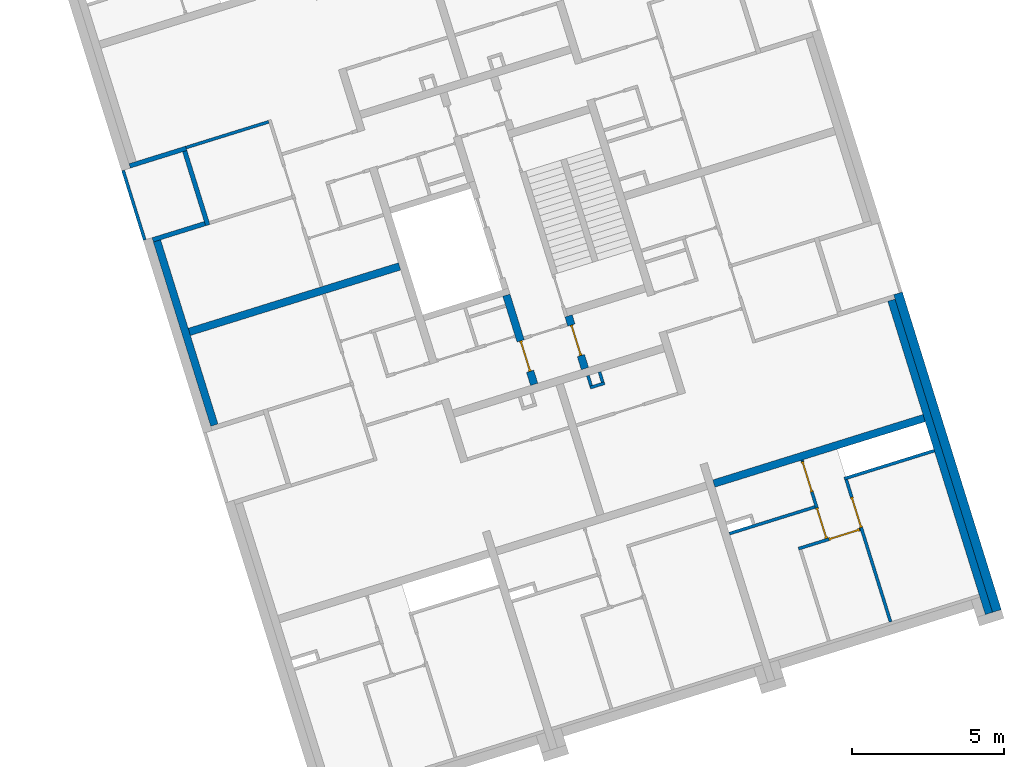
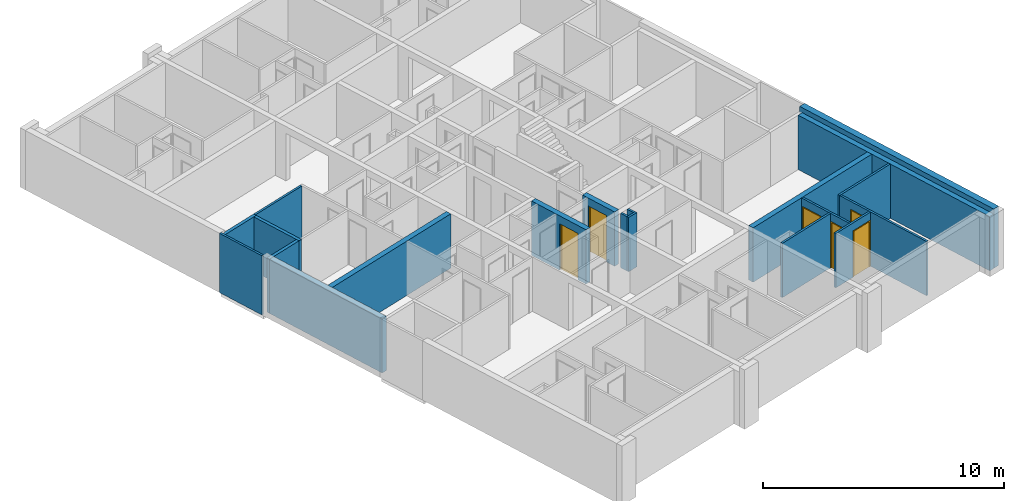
# One storey, part 4 of 12: 20 walls, 6 doors, 9 openings.
"""IFC4 building model written with IfcOpenShell, lengths in metres."""

from ifc_helpers import new_model, entity, si_unit, converted_unit, direction, frame, origin, place, context, subcontext, project, spatial, indexed_curve, outline, extrude, polygons, source, transform, mapped, material, constituent, constituent_set, type_object, type_shapes, element, fill, save


model = new_model("IFC4")

# Units and contexts
model_context = context("Model", 3, precision=1e-05, world=origin(), true_north=direction((6.12323399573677e-17, 1.0)))
body_context = subcontext(model_context, "Body", "Model", "MODEL_VIEW")
ifc_project = project(units=[si_unit("LENGTHUNIT", "METRE"), si_unit("AREAUNIT", "SQUARE_METRE"), si_unit("VOLUMEUNIT", "CUBIC_METRE"), converted_unit("PLANEANGLEUNIT", "DEGREE", entity("IfcPlaneAngleMeasure", 0.0174532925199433), si_unit("PLANEANGLEUNIT", "RADIAN"), dimensions=[0, 0, 0, 0, 0, 0, 0])], contexts=[model_context])

# Site, building, storey
site_placement = place(None, frame((13.1347999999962, 11.9886000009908, 0.0), z_axis=(0.0, 0.0, 1.0), x_axis=(0.954770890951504, 0.297342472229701, 0.0)))
site = spatial("IfcSite", under=ifc_project, at=site_placement, Name="Schiehaven", CompositionType="ELEMENT")
building_placement = place(site_placement, origin())
building = spatial("IfcBuilding", under=site, at=building_placement, Name="VORM huis", CompositionType="ELEMENT")
storey_placement = place(building_placement, frame((0.0, 0.0, 3.9)))
storey = spatial("IfcBuildingStorey", under=building, at=storey_placement, Name="01 eerste verdieping", CompositionType="ELEMENT", Elevation=3.9)

# Walls
ifc_material_1 = material(Name="beton_gewapend_ihw", Category="Miscellaneous")
wall_type_1 = type_object("IfcWallType", Name="Basic Wall:28_WA_skelet_wand 250mm_gen", PredefinedType="STANDARD")
wall_1_placement = place(storey_placement, frame((5.0, 13.8750000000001, 0.0), z_axis=(0.0, 0.0, 1.0), x_axis=(0.0, 1.0, 0.0)))
element("IfcWall", 1, at=wall_1_placement, inside=storey, type_object=wall_type_1, material=ifc_material_1, Name="Constructieve wand", ObjectType="Wand", PredefinedType="NOTDEFINED", context=body_context, shape_type="SweptSolid", body=[
    extrude(outline(indexed_curve([(6.34999999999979, 0.125), (-6.39488462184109e-16, 0.125), (-1.52624579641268e-15, -0.125), (6.3499999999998, -0.125), (6.34999999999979, 0.125)], self_intersect=False)), origin(), (0.0, 0.0, 1.0), 2.75),
])
wall_2_placement = place(storey_placement, frame((27.5000000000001, 0.37499999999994, 0.0), z_axis=(0.0, 0.0, 1.0), x_axis=(0.0, 1.0, 0.0)))
element("IfcWall", 2, at=wall_2_placement, inside=storey, type_object=wall_type_1, material=ifc_material_1, Name="Constructieve wand", ObjectType="Wand", PredefinedType="NOTDEFINED", context=body_context, shape_type="SweptSolid", body=[
    extrude(outline(indexed_curve([(10.8000000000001, 0.125000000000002), (1.00265474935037e-16, 0.125000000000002), (-1.00265474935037e-16, -0.125000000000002), (10.8000000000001, -0.125000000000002), (10.8000000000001, 0.125000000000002)], self_intersect=False)), origin(), (0.0, 0.0, 1.0), 2.75),
])
ifc_material_2 = material(Name="ntb_ntb_ntb", Category="Miscellaneous")
wall_type_2 = type_object("IfcWallType", Name="Basic Wall: 300mm_gen", PredefinedType="STANDARD")
wall_3_placement = place(storey_placement, frame((27.7750000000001, 0.374999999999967, 0.0), z_axis=(0.0, 0.0, 1.0), x_axis=(0.0, 1.0, 0.0)))
element("IfcWall", 3, at=wall_3_placement, inside=storey, type_object=wall_type_2, material=ifc_material_2, Name="Gevelwand", ObjectType="Wand", PredefinedType="NOTDEFINED", context=body_context, shape_type="SweptSolid", body=[
    extrude(outline(indexed_curve([(10.95, 0.15), (7.31666979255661e-17, 0.150000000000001), (-7.31666979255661e-17, -0.150000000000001), (10.95, -0.150000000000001), (10.95, 0.15)], self_intersect=False)), origin(), (0.0, 0.0, 1.0), 3.0),
])
wall_type_3 = type_object("IfcWallType", Name="Basic Wall:22_WA_afbouw_binnenwand 250mm_gen", PredefinedType="STANDARD")
wall_4_placement = place(storey_placement, frame((12.3750000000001, 17.05, 0.0), z_axis=(0.0, 0.0, 1.0), x_axis=(-1.0, 0.0, 0.0)))
element("IfcWall", 4, at=wall_4_placement, inside=storey, type_object=wall_type_3, material=ifc_material_2, Name="Binnenwand", ObjectType="Wand", PredefinedType="NOTDEFINED", context=body_context, shape_type="SweptSolid", body=[
    extrude(outline(indexed_curve([(7.24999999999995, 0.125), (-4.96496521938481e-16, 0.125), (4.96496521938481e-16, -0.125), (7.24999999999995, -0.124999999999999), (7.24999999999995, 0.125)], self_intersect=False)), origin(), (0.0, 0.0, 1.0), 2.75),
])

# Wall, opening, door
wall_5_placement = place(storey_placement, frame((17.2000000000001, 13.84, 0.0), z_axis=(0.0, 0.0, 1.0), x_axis=(0.0, -1.0, 0.0)))
wall_5 = element("IfcWall", 5, at=wall_5_placement, inside=storey, type_object=wall_type_3, material=ifc_material_2, Name="Binnenwand", ObjectType="Wand", PredefinedType="NOTDEFINED", context=body_context, shape_type="Tessellation", body=[
    polygons([(1.36500000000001, -0.124999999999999, 2.34999999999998), (1.36500000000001, -0.124999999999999, -5.41433564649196e-16), (1.81499999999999, -0.125000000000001, -5.41433564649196e-16), (1.81499999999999, -0.125000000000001, 2.75), (0.315000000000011, -0.124999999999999, 2.75), (0.215000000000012, -0.124999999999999, 2.75), (-2.16573425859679e-15, -0.125, 2.75), (-2.16573425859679e-15, -0.125, -5.41433564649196e-16), (0.215000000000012, -0.124999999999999, 0.0), (0.315000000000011, -0.124999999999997, -5.41433564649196e-16), (0.315000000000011, -0.124999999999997, 2.34999999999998), (1.81499999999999, 0.124999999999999, -5.41433564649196e-16), (1.36500000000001, 0.125, -5.41433564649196e-16), (1.36500000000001, 0.125, 2.34999999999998), (0.315000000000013, 0.125, 2.34999999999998), (0.315000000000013, 0.125, -5.41433564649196e-16), (0.0, 0.124999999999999, -5.41433564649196e-16), (0.0, 0.124999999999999, 2.75), (1.81499999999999, 0.124999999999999, 2.75), (-2.16573425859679e-15, -0.0250000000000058, 0.0), (-2.16573425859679e-15, -0.0250000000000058, 2.75)], [[[1, 2, 3, 4, 5, 6, 7, 8, 9, 10, 11]], [[12, 13, 14, 15, 16, 17, 18, 19]], [[10, 9, 8, 20, 17, 16]], [[4, 3, 12, 19]], [[7, 6, 5, 4, 19, 18, 21]], [[8, 7, 21, 18, 17, 20]], [[16, 15, 11, 10]], [[14, 13, 2, 1]], [[15, 14, 1, 11]], [[3, 2, 13, 12]]], closed=True),
])
opening_1_placement = place(wall_5_placement, frame((1.36500000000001, 0.125000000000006, 0.0)))
opening_1 = element("IfcOpeningElement", 6, at=opening_1_placement, cuts=wall_5, Name="Woningtoegangsdeur", PredefinedType="OPENING", context=body_context, shape_type="SweptSolid", body=[
    extrude(outline(indexed_curve([(2.34999999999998, 1.05), (0.0, 1.05), (0.0, 1.35358391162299e-15), (2.34999999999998, 1.35358391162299e-15), (2.34999999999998, 1.05)], self_intersect=False)), frame((0.0, 0.0, 0.0), z_axis=(0.0, -1.0, 0.0), x_axis=(0.0, 0.0, 1.0)), (0.0, 0.0, 1.0), 0.25),
])
ifc_material_3 = material(Name="PD_a_binnenwandopeningen", Category="Miscellaneous")
ifc_constituent_1 = constituent(ifc_material_3, Name="PD_a_binnenwandopeningen", Category="Miscellaneous")
ifc_material_4 = material(Name="metaal_aluminium_ntb", Category="Miscellaneous")
ifc_constituent_2 = constituent(ifc_material_4, Name="metaal_aluminium_ntb", Category="Miscellaneous")
ifc_constituent_set_1 = constituent_set(constituents=[ifc_constituent_1, ifc_constituent_2])
door_type_1 = type_object("IfcDoorType", Name="32_DO_binnendeur enkel:woningtoegangsdeur", OperationType="REVOLVING", PredefinedType="DOOR")
shared_shape_1 = source(origin(), body_context, "Body", "SweptSolid", [
    extrude(outline(indexed_curve([(-1.16249999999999, -0.525000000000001), (1.18749999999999, -0.525), (1.18749999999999, 0.525000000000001), (-1.16249999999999, 0.525000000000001), (-1.16249999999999, 0.475), (1.13749999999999, 0.475), (1.13749999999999, -0.475), (-1.16249999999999, -0.475), (-1.16249999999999, -0.525000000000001)], self_intersect=False)), frame((0.525000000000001, 0.0749999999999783, 1.16249999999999), z_axis=(0.0, 1.0, 0.0), x_axis=(0.0, 0.0, 1.0)), (0.0, 0.0, 1.0), 0.1),
    extrude(outline(indexed_curve([(-0.025, -0.475), (0.025, -0.475), (0.025, 0.475), (-0.025, 0.475), (-0.025, -0.475)], self_intersect=False)), frame((0.525000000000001, 0.12499999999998, 0.0), z_axis=(0.0, 0.0, 1.0), x_axis=(0.0, 1.0, 0.0)), (0.0, 0.0, 1.0), 2.29999999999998),
])
type_shapes(door_type_1, [shared_shape_1])
door_1_placement = place(opening_1_placement, frame((0.0, 0.0, 0.0), z_axis=(0.0, 0.0, 1.0), x_axis=(-1.0, 0.0, 0.0)))
door_1 = element("IfcDoor", 7, at=door_1_placement, inside=storey, type_object=door_type_1, material=ifc_constituent_set_1, Name="Woningtoegangsdeur", ObjectType="Deur", OperationType="REVOLVING", OverallHeight=2.34999999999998, OverallWidth=1.05, PredefinedType="DOOR", context=body_context, shape_type="MappedRepresentation", body=[
    mapped(shared_shape_1, transform((0.0, 0.0, 0.0), scale=1.0)),
])
fill(opening_1, door_1)

wall_6_placement = place(storey_placement, frame((15.45, 15.1, 0.0), z_axis=(0.0, 0.0, 1.0), x_axis=(0.0, -1.0, 0.0)))
wall_6 = element("IfcWall", 8, at=wall_6_placement, inside=storey, type_object=wall_type_3, material=ifc_material_2, Name="Binnenwand", ObjectType="Wand", PredefinedType="NOTDEFINED", context=body_context, shape_type="Tessellation", body=[
    polygons([(2.625, -0.125000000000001, 2.34999999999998), (2.625, -0.125000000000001, -5.41433564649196e-16), (3.07499999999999, -0.124999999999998, -5.41433564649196e-16), (3.07499999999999, -0.124999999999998, 2.75), (0.0, -0.124999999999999, 2.75), (0.0, -0.124999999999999, -5.41433564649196e-16), (1.575, -0.124999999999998, -5.41433564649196e-16), (1.575, -0.124999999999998, 2.34999999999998), (3.07499999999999, 0.125000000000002, -5.41433564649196e-16), (2.625, 0.125000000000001, -5.41433564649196e-16), (2.625, 0.125000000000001, 2.34999999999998), (1.575, 0.125000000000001, 2.34999999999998), (1.575, 0.125000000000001, -5.41433564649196e-16), (1.475, 0.125000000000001, 0.0), (0.0, 0.125000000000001, -5.41433564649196e-16), (0.0, 0.125000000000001, 2.75), (1.475, 0.125000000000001, 2.75), (1.575, 0.125000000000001, 2.75), (3.07499999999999, 0.125000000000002, 2.75)], [[[1, 2, 3, 4, 5, 6, 7, 8]], [[9, 10, 11, 12, 13, 14, 15, 16, 17, 18, 19]], [[7, 6, 15, 14, 13]], [[4, 3, 9, 19]], [[5, 4, 19, 18, 17, 16]], [[6, 5, 16, 15]], [[13, 12, 8, 7]], [[11, 10, 2, 1]], [[12, 11, 1, 8]], [[3, 2, 10, 9]]], closed=True),
])
opening_2_placement = place(wall_6_placement, frame((1.575, -0.124999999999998, 0.0)))
opening_2 = element("IfcOpeningElement", 9, at=opening_2_placement, cuts=wall_6, Name="Woningtoegangsdeur", PredefinedType="OPENING", context=body_context, shape_type="SweptSolid", body=[
    extrude(outline(indexed_curve([(2.34999999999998, 1.35358391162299e-15), (2.34999999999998, 1.05), (0.0, 1.05), (0.0, 1.35358391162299e-15), (2.34999999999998, 1.35358391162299e-15)], self_intersect=False)), frame((0.0, 0.0, 0.0), z_axis=(0.0, 1.0, 0.0), x_axis=(0.0, 0.0, 1.0)), (0.0, 0.0, 1.0), 0.25),
])
ifc_constituent_3 = constituent(ifc_material_3, Name="PD_a_binnenwandopeningen", Category="Miscellaneous")
ifc_constituent_4 = constituent(ifc_material_4, Name="metaal_aluminium_ntb", Category="Miscellaneous")
ifc_constituent_set_2 = constituent_set(constituents=[ifc_constituent_3, ifc_constituent_4])
shared_shape_2 = source(origin(), body_context, "Body", "SweptSolid", [
    extrude(outline(indexed_curve([(0.475, -1.16249999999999), (0.525000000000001, -1.16249999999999), (0.525000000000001, 1.18749999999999), (-0.525000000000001, 1.18749999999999), (-0.525000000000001, -1.16249999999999), (-0.475, -1.16249999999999), (-0.475, 1.13749999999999), (0.475, 1.13749999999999), (0.475, -1.16249999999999)], self_intersect=False)), frame((0.525000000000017, 0.174999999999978, 1.16249999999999), z_axis=(0.0, -1.0, 0.0), x_axis=(1.0, 0.0, 0.0)), (0.0, 0.0, 1.0), 0.1),
    extrude(outline(indexed_curve([(-0.475, -0.025), (0.475, -0.025), (0.475, 0.025), (-0.475, 0.025), (-0.475, -0.025)], self_intersect=False)), frame((0.525000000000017, 0.12499999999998, 0.0)), (0.0, 0.0, 1.0), 2.29999999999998),
])
door_2_placement = place(opening_2_placement, origin())
door_2 = element("IfcDoor", 10, at=door_2_placement, inside=storey, type_object=door_type_1, material=ifc_constituent_set_2, Name="Woningtoegangsdeur", ObjectType="Deur", OperationType="REVOLVING", OverallHeight=2.34999999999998, OverallWidth=1.05, PredefinedType="DOOR", context=body_context, shape_type="MappedRepresentation", body=[
    mapped(shared_shape_2, transform((0.0, 0.0, 0.0), scale=1.0)),
])
fill(opening_2, door_2)

# Wall
wall_7_placement = place(storey_placement, frame((20.125, 7.15000000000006, 0.0)))
element("IfcWall", 11, at=wall_7_placement, inside=storey, type_object=wall_type_3, material=ifc_material_2, Name="Binnenwand", ObjectType="Wand", PredefinedType="NOTDEFINED", context=body_context, shape_type="SweptSolid", body=[
    extrude(outline(indexed_curve([(7.24999999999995, 0.124999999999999), (-1.92055213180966e-16, 0.125), (1.92055213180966e-16, -0.125), (7.24999999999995, -0.125000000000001), (7.24999999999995, 0.124999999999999)], self_intersect=False)), origin(), (0.0, 0.0, 1.0), 2.75),
])

# Wall, openings, door
wall_type_4 = type_object("IfcWallType", Name="Basic Wall:22_WA_afbouw_binnenwand 100mm_gen", PredefinedType="STANDARD")
wall_8_placement = place(storey_placement, frame((24.2749999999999, 4.27500000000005, 0.0), z_axis=(0.0, 0.0, 1.0), x_axis=(-1.0, 0.0, 0.0)))
wall_8 = element("IfcWall", 12, at=wall_8_placement, inside=storey, type_object=wall_type_4, material=ifc_material_2, Name="Binnenwand", ObjectType="Wand", PredefinedType="NOTDEFINED", context=body_context, shape_type="Tessellation", body=[
    polygons([(2.12499999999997, -0.05, 2.75), (1.19999999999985, -0.05, 2.75), (1.09999999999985, -0.05, 2.75), (0.0, -0.05, 2.75), (0.0, -0.05, 2.34999999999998), (0.0, -0.05, 0.0), (0.0249999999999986, -0.05, 0.0), (0.0249999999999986, -0.05, 2.34999999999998), (1.075, -0.05, 2.34999999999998), (1.075, -0.05, 0.0), (2.12499999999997, -0.05, 0.0), (0.0, 0.05, 2.75), (2.02499999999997, 0.05, 2.75), (2.12499999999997, 0.05, 2.75), (2.12499999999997, 0.05, 0.0), (2.02499999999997, 0.05, 5.41433564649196e-16), (1.075, 0.05, 0.0), (1.075, 0.05, 2.34999999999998), (0.0249999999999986, 0.05, 2.34999999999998), (0.0249999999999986, 0.05, 0.0), (0.0, 0.05, 0.0)], [[[1, 2, 3, 4, 5, 6, 7, 8, 9, 10, 11]], [[12, 13, 14, 15, 16, 17, 18, 19, 20, 21]], [[6, 21, 20, 7]], [[4, 3, 2, 1, 14, 13, 12]], [[6, 5, 4, 12, 21]], [[19, 8, 7, 20]], [[9, 18, 17, 10]], [[8, 19, 18, 9]], [[1, 11, 15, 14]], [[15, 11, 10, 17, 16]]], closed=True),
])
opening_3_placement = place(wall_8_placement, origin())
element("IfcOpeningElement", 13, at=opening_3_placement, cuts=wall_8, Name="Binnendeur", PredefinedType="OPENING", context=body_context, shape_type="SweptSolid", body=[
    extrude(outline(indexed_curve([(-0.0500000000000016, -1.17499999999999), (0.0499999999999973, -1.17499999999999), (0.0499999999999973, 1.17499999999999), (-0.0500000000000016, 1.17499999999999), (-0.0500000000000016, -1.17499999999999)], self_intersect=False)), frame((1.14999999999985, -1.10000000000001, 1.17499999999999), z_axis=(0.0, 1.0, 0.0), x_axis=(1.0, 0.0, 0.0)), (0.0, 0.0, 1.0), 1.05),
])
opening_4_placement = place(wall_8_placement, frame((1.075, 0.05, 0.0)))
opening_4 = element("IfcOpeningElement", 14, at=opening_4_placement, cuts=wall_8, Name="Binnendeur", PredefinedType="OPENING", context=body_context, shape_type="SweptSolid", body=[
    extrude(outline(indexed_curve([(2.34999999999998, 1.05), (0.0, 1.05), (0.0, 0.0), (2.34999999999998, 0.0), (2.34999999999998, 1.05)], self_intersect=False)), frame((0.0, 0.0, 0.0), z_axis=(0.0, -1.0, 0.0), x_axis=(0.0, 0.0, 1.0)), (0.0, 0.0, 1.0), 0.1),
])
ifc_constituent_5 = constituent(ifc_material_3, Name="PD_a_binnenwandopeningen", Category="Miscellaneous")
ifc_constituent_6 = constituent(ifc_material_4, Name="metaal_aluminium_ntb", Category="Miscellaneous")
ifc_constituent_set_3 = constituent_set(constituents=[ifc_constituent_5, ifc_constituent_6])
door_type_2 = type_object("IfcDoorType", Name="32_DO_binnendeur enkel:binnendeur", OperationType="REVOLVING", PredefinedType="DOOR")
shared_shape_3 = source(origin(), body_context, "Body", "SweptSolid", [
    extrude(outline(indexed_curve([(-1.16249999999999, -0.525000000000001), (1.18749999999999, -0.525), (1.18749999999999, 0.525), (-1.16249999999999, 0.525), (-1.16249999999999, 0.475), (1.13749999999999, 0.475), (1.13749999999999, -0.475), (-1.16249999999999, -0.475), (-1.16249999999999, -0.525000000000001)], self_intersect=False)), frame((0.525000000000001, 0.0, 1.16249999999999), z_axis=(0.0, 1.0, 0.0), x_axis=(0.0, 0.0, 1.0)), (0.0, 0.0, 1.0), 0.1),
    extrude(outline(indexed_curve([(-0.025, -0.475), (0.025, -0.475), (0.025, 0.475), (-0.025, 0.475), (-0.025, -0.475)], self_intersect=False)), frame((0.525000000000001, 0.0499999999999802, 0.0), z_axis=(0.0, 0.0, 1.0), x_axis=(0.0, 1.0, 0.0)), (0.0, 0.0, 1.0), 2.29999999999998),
])
type_shapes(door_type_2, [shared_shape_3])
door_3_placement = place(opening_4_placement, frame((0.0, 0.0, 0.0), z_axis=(0.0, 0.0, 1.0), x_axis=(-1.0, 0.0, 0.0)))
door_3 = element("IfcDoor", 15, at=door_3_placement, inside=storey, type_object=door_type_2, material=ifc_constituent_set_3, Name="Binnendeur", ObjectType="Deur", OperationType="REVOLVING", OverallHeight=2.34999999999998, OverallWidth=1.05, PredefinedType="DOOR", context=body_context, shape_type="MappedRepresentation", body=[
    mapped(shared_shape_3, transform((0.0, 0.0, 0.0), scale=1.0)),
])
fill(opening_4, door_3)

# Wall
wall_9_placement = place(storey_placement, frame((24.2749999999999, 6.02500000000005, 0.0)))
element("IfcWall", 16, at=wall_9_placement, inside=storey, type_object=wall_type_4, material=ifc_material_2, Name="Binnenwand", ObjectType="Wand", PredefinedType="NOTDEFINED", context=body_context, shape_type="SweptSolid", body=[
    extrude(outline(indexed_curve([(3.1000000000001, 0.0500000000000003), (-1.53252897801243e-16, 0.0500000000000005), (1.53252897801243e-16, -0.0500000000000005), (3.1000000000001, -0.0500000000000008), (3.1000000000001, 0.0500000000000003)], self_intersect=False)), origin(), (0.0, 0.0, 1.0), 2.75),
])

# Wall, openings, door
wall_10_placement = place(storey_placement, frame((24.3249999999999, 1.075, 0.0), z_axis=(0.0, 0.0, 1.0), x_axis=(0.0, 1.0, 0.0)))
wall_10 = element("IfcWall", 17, at=wall_10_placement, inside=storey, type_object=wall_type_4, material=ifc_material_2, Name="Binnenwand", ObjectType="Wand", PredefinedType="NOTDEFINED", context=body_context, shape_type="Tessellation", body=[
    polygons([(4.90000000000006, -0.0499999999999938, 2.75), (1.35358391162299e-16, -0.0499999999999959, 2.75), (4.06075173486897e-16, -0.0499999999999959, 0.0), (3.25000000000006, -0.049999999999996, 0.0), (3.25000000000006, -0.049999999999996, 2.34999999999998), (4.30000000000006, -0.0499999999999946, 2.34999999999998), (4.30000000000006, -0.0499999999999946, 0.0), (4.90000000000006, -0.0499999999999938, 0.0), (2.70716782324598e-16, 0.050000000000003, 2.75), (3.15000000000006, 0.0500000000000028, 2.75), (3.25000000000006, 0.050000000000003, 2.75), (4.90000000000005, 0.0500000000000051, 2.75), (4.90000000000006, 0.0500000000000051, 0.0), (4.30000000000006, 0.0500000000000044, 0.0), (4.30000000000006, 0.0500000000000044, 2.34999999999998), (3.25000000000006, 0.050000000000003, 2.34999999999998), (3.25000000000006, 0.050000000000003, 0.0), (3.15000000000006, 0.0500000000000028, 5.41433564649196e-16), (4.06075173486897e-16, 0.050000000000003, 0.0)], [[[1, 2, 3, 4, 5, 6, 7, 8]], [[9, 10, 11, 12, 13, 14, 15, 16, 17, 18, 19]], [[3, 19, 18, 17, 4]], [[2, 1, 12, 11, 10, 9]], [[3, 2, 9, 19]], [[1, 8, 13, 12]], [[6, 15, 14, 7]], [[16, 5, 4, 17]], [[15, 6, 5, 16]], [[13, 8, 7, 14]]], closed=True),
])
opening_5_placement = place(wall_10_placement, frame((3.25000000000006, -0.0500000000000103, 0.0)))
opening_5 = element("IfcOpeningElement", 18, at=opening_5_placement, cuts=wall_10, Name="Binnendeur", PredefinedType="OPENING", context=body_context, shape_type="SweptSolid", body=[
    extrude(outline(indexed_curve([(2.34999999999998, 1.05), (0.0, 1.05), (0.0, 5.41433564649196e-16), (2.34999999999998, 5.41433564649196e-16), (2.34999999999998, 1.05)], self_intersect=False)), frame((0.0, 0.0, 0.0), z_axis=(0.0, 1.0, 0.0), x_axis=(0.0, 0.0, 1.0)), (0.0, 0.0, 1.0), 0.1),
])
opening_6_placement = place(wall_10_placement, frame((-1.075, 24.3249999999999, 0.0), z_axis=(0.0, 0.0, 1.0), x_axis=(0.0, -1.0, 0.0)))
element("IfcOpeningElement", 19, at=opening_6_placement, cuts=wall_10, Name="Binnendeur", PredefinedType="OPENING", context=body_context, shape_type="SweptSolid", body=[
    extrude(outline(indexed_curve([(-1.17499999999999, -0.525), (1.17499999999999, -0.525), (1.17499999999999, 0.525), (-1.17499999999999, 0.525), (-1.17499999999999, -0.525)], self_intersect=False)), frame((25.8989999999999, 4.85000000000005, 1.17499999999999), z_axis=(-1.0, 0.0, 0.0), x_axis=(0.0, 0.0, -1.0)), (0.0, 0.0, 1.0), 3.048),
])
ifc_constituent_7 = constituent(ifc_material_3, Name="PD_a_binnenwandopeningen", Category="Miscellaneous")
ifc_constituent_8 = constituent(ifc_material_4, Name="metaal_aluminium_ntb", Category="Miscellaneous")
ifc_constituent_set_4 = constituent_set(constituents=[ifc_constituent_7, ifc_constituent_8])
door_4_placement = place(opening_5_placement, origin())
door_4 = element("IfcDoor", 20, at=door_4_placement, inside=storey, type_object=door_type_2, material=ifc_constituent_set_4, Name="Binnendeur", ObjectType="Deur", OperationType="REVOLVING", OverallHeight=2.34999999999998, OverallWidth=1.05, PredefinedType="DOOR", context=body_context, shape_type="MappedRepresentation", body=[
    mapped(shared_shape_3, transform((0.0, 0.0, 0.0), scale=1.0)),
])
fill(opening_5, door_4)

# Wall, openings, doors
wall_11_placement = place(storey_placement, frame((23.1250000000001, 4.32500000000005, 0.0), z_axis=(0.0, 0.0, 1.0), x_axis=(0.0, 1.0, 0.0)))
wall_11 = element("IfcWall", 21, at=wall_11_placement, inside=storey, type_object=wall_type_4, material=ifc_material_2, Name="Binnenwand", ObjectType="Wand", PredefinedType="NOTDEFINED", context=body_context, shape_type="Tessellation", body=[
    polygons([(2.70000000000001, -0.0499999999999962, 2.75), (0.0, -0.0499999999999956, 2.75), (0.0, -0.0499999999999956, 2.34999999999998), (1.05000000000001, -0.0499999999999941, 2.34999999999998), (1.05000000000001, -0.0499999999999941, 0.0), (1.59999999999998, -0.0499999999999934, 0.0), (1.59999999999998, -0.0499999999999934, 2.34999999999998), (2.64999999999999, -0.0499999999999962, 2.34999999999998), (2.64999999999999, -0.0499999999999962, 0.0), (2.70000000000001, -0.0499999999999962, 0.0), (-5.41433564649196e-16, 0.0500000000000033, 2.75), (1.05000000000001, 0.0500000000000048, 2.75), (1.15000000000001, 0.0500000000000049, 2.75), (2.7, 0.0500000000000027, 2.75), (2.7, 0.0500000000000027, 0.0), (2.64999999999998, 0.0500000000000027, 0.0), (2.64999999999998, 0.0500000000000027, 2.34999999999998), (1.59999999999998, 0.0500000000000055, 2.34999999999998), (1.59999999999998, 0.0500000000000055, 0.0), (1.15000000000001, 0.0500000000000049, 5.41433564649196e-16), (1.05000000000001, 0.0500000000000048, 0.0), (1.05000000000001, 0.0500000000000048, 2.34999999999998), (-5.41433564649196e-16, 0.0500000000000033, 2.34999999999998)], [[[1, 2, 3, 4, 5, 6, 7, 8, 9, 10]], [[11, 12, 13, 14, 15, 16, 17, 18, 19, 20, 21, 22, 23]], [[9, 16, 15, 10]], [[2, 1, 14, 13, 12, 11]], [[18, 17, 8, 7]], [[17, 16, 9, 8]], [[19, 18, 7, 6]], [[2, 11, 23, 3]], [[4, 22, 21, 5]], [[22, 4, 3, 23]], [[1, 10, 15, 14]], [[19, 6, 5, 21, 20]]], closed=True),
])
opening_7_placement = place(wall_11_placement, frame((2.64999999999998, 0.0499999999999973, 0.0)))
opening_7 = element("IfcOpeningElement", 22, at=opening_7_placement, cuts=wall_11, Name="Binnendeur", PredefinedType="OPENING", context=body_context, shape_type="SweptSolid", body=[
    extrude(outline(indexed_curve([(2.34999999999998, 1.05), (0.0, 1.05), (0.0, 0.0), (2.34999999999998, 0.0), (2.34999999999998, 1.05)], self_intersect=False)), frame((0.0, 0.0, 0.0), z_axis=(0.0, -1.0, 0.0), x_axis=(0.0, 0.0, 1.0)), (0.0, 0.0, 1.0), 0.1),
])
opening_8_placement = place(wall_11_placement, frame((-4.32500000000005, 23.1250000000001, 0.0), z_axis=(0.0, 0.0, 1.0), x_axis=(0.0, -1.0, 0.0)))
element("IfcOpeningElement", 23, at=opening_8_placement, cuts=wall_11, Name="Binnendeur", PredefinedType="OPENING", context=body_context, shape_type="SweptSolid", body=[
    extrude(outline(indexed_curve([(-0.525000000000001, -1.17499999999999), (0.525, -1.17499999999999), (0.525, 1.17499999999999), (-0.525000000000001, 1.17499999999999), (-0.525000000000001, -1.17499999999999)], self_intersect=False)), frame((24.5990000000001, 6.45000000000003, 1.17499999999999), z_axis=(-1.0, 0.0, 0.0), x_axis=(0.0, 1.0, 0.0)), (0.0, 0.0, 1.0), 3.048),
])
opening_9_placement = place(wall_11_placement, frame((1.05000000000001, 0.0500000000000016, 0.0)))
opening_9 = element("IfcOpeningElement", 24, at=opening_9_placement, cuts=wall_11, Name="Binnendeur", PredefinedType="OPENING", context=body_context, shape_type="SweptSolid", body=[
    extrude(outline(indexed_curve([(2.34999999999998, 1.05), (0.0, 1.05), (0.0, 2.70716782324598e-16), (2.34999999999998, 2.70716782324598e-16), (2.34999999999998, 1.05)], self_intersect=False)), frame((0.0, 0.0, 0.0), z_axis=(0.0, -1.0, 0.0), x_axis=(0.0, 0.0, 1.0)), (0.0, 0.0, 1.0), 0.1),
])
ifc_constituent_9 = constituent(ifc_material_3, Name="PD_a_binnenwandopeningen", Category="Miscellaneous")
ifc_constituent_10 = constituent(ifc_material_4, Name="metaal_aluminium_ntb", Category="Miscellaneous")
ifc_constituent_set_5 = constituent_set(constituents=[ifc_constituent_9, ifc_constituent_10])
door_5_placement = place(opening_7_placement, frame((0.0, 0.0, 0.0), z_axis=(0.0, 0.0, 1.0), x_axis=(-1.0, 0.0, 0.0)))
door_5 = element("IfcDoor", 25, at=door_5_placement, inside=storey, type_object=door_type_2, material=ifc_constituent_set_5, Name="Binnendeur", ObjectType="Deur", OperationType="REVOLVING", OverallHeight=2.34999999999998, OverallWidth=1.05, PredefinedType="DOOR", context=body_context, shape_type="MappedRepresentation", body=[
    mapped(shared_shape_3, transform((0.0, 0.0, 0.0), scale=1.0)),
])
fill(opening_7, door_5)
ifc_constituent_11 = constituent(ifc_material_3, Name="PD_a_binnenwandopeningen", Category="Miscellaneous")
ifc_constituent_12 = constituent(ifc_material_4, Name="metaal_aluminium_ntb", Category="Miscellaneous")
ifc_constituent_set_6 = constituent_set(constituents=[ifc_constituent_11, ifc_constituent_12])
door_6_placement = place(opening_9_placement, frame((0.0, 0.0, 0.0), z_axis=(0.0, 0.0, 1.0), x_axis=(-1.0, 0.0, 0.0)))
door_6 = element("IfcDoor", 26, at=door_6_placement, inside=storey, type_object=door_type_2, material=ifc_constituent_set_6, Name="Binnendeur", ObjectType="Deur", OperationType="REVOLVING", OverallHeight=2.34999999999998, OverallWidth=1.05, PredefinedType="DOOR", context=body_context, shape_type="MappedRepresentation", body=[
    mapped(shared_shape_3, transform((0.0, 0.0, 0.0), scale=1.0)),
])
fill(opening_9, door_6)

# Walls
wall_12_placement = place(storey_placement, frame((23.0750000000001, 5.42500000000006, 0.0), z_axis=(0.0, 0.0, 1.0), x_axis=(-1.0, 0.0, 0.0)))
element("IfcWall", 27, at=wall_12_placement, inside=storey, type_object=wall_type_4, material=ifc_material_2, Name="Binnenwand", ObjectType="Wand", PredefinedType="NOTDEFINED", context=body_context, shape_type="SweptSolid", body=[
    extrude(outline(indexed_curve([(2.95000000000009, 0.0500000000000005), (0.0, 0.0500000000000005), (0.0, -0.0500000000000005), (2.95000000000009, -0.0500000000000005), (2.95000000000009, 0.0500000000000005)], self_intersect=False)), origin(), (0.0, 0.0, 1.0), 2.75),
])
for number, where, z_axis, x_axis in (
    (28, (17.6250000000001, 11.775, 0.0), (0.0, 0.0, 1.0), (0.0, -1.0, 0.0)),
    (29, (17.2250000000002, 11.775, 0.0), (0.0, 0.0, 1.0), (0.0, -1.0, 0.0)),
):
    element("IfcWall", number, at=place(storey_placement, frame(where, z_axis=z_axis, x_axis=x_axis)), inside=storey, type_object=wall_type_4, material=ifc_material_2, Name="Binnenwand", ObjectType="Wand", PredefinedType="NOTDEFINED", context=body_context, shape_type="SweptSolid", body=[
        extrude(outline(indexed_curve([(0.350000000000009, 0.0499999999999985), (-1.7325874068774e-16, 0.0499999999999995), (1.7325874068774e-16, -0.0499999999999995), (0.350000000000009, -0.0500000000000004), (0.350000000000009, 0.0499999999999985)], self_intersect=False)), origin(), (0.0, 0.0, 1.0), 2.75),
    ])
wall_13_placement = place(storey_placement, frame((17.1750000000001, 11.375, 0.0)))
element("IfcWall", 30, at=wall_13_placement, inside=storey, type_object=wall_type_4, material=ifc_material_2, Name="Binnenwand", ObjectType="Wand", PredefinedType="NOTDEFINED", context=body_context, shape_type="SweptSolid", body=[
    extrude(outline(indexed_curve([(0.499999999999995, 0.049999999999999), (4.78300409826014e-16, 0.0499999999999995), (-4.78300409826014e-16, -0.0499999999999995), (0.499999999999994, -0.0499999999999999), (0.499999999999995, 0.049999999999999)], self_intersect=False)), origin(), (0.0, 0.0, 1.0), 2.75),
])
wall_14_placement = place(storey_placement, frame((9.67500000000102, 22.875, 0.0), z_axis=(0.0, 0.0, 1.0), x_axis=(-1.0, 0.0, 0.0)))
element("IfcWall", 31, at=wall_14_placement, inside=storey, type_object=wall_type_4, material=ifc_material_2, Name="Binnenwand", ObjectType="Wand", PredefinedType="NOTDEFINED", context=body_context, shape_type="SweptSolid", body=[
    extrude(outline(indexed_curve([(2.85000000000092, 0.0499999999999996), (3.39265873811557e-16, 0.0500000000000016), (-3.39265873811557e-16, -0.0500000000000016), (2.85000000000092, -0.0500000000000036), (2.85000000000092, 0.0499999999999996)], self_intersect=False)), origin(), (0.0, 0.0, 1.0), 2.75),
])
wall_type_5 = type_object("IfcWallType", Name="Basic Wall: 150mm_gen", PredefinedType="STANDARD")
wall_15_placement = place(storey_placement, frame((4.87500000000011, 22.85, 0.0)))
element("IfcWall", 32, at=wall_15_placement, inside=storey, type_object=wall_type_5, material=ifc_material_2, Name="Gevelwand", ObjectType="Wand", PredefinedType="NOTDEFINED", context=body_context, shape_type="SweptSolid", body=[
    extrude(outline(indexed_curve([(1.95000000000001, 0.0749999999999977), (-2.34088304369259e-16, 0.0750000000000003), (2.34088304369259e-16, -0.0750000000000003), (1.95000000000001, -0.0750000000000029), (1.95000000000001, 0.0749999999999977)], self_intersect=False)), origin(), (0.0, 0.0, 1.0), 2.75),
])
wall_16_placement = place(storey_placement, frame((6.75000000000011, 22.775, 0.0), z_axis=(0.0, 0.0, 1.0), x_axis=(0.0, -1.0, 0.0)))
element("IfcWall", 33, at=wall_16_placement, inside=storey, type_object=wall_type_5, material=ifc_material_2, Name="Gevelwand", ObjectType="Wand", PredefinedType="NOTDEFINED", context=body_context, shape_type="SweptSolid", body=[
    extrude(outline(indexed_curve([(2.55, 0.0750000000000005), (-4.831491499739e-16, 0.0750000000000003), (4.831491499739e-16, -0.0750000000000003), (2.55000000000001, -0.0750000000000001), (2.55, 0.0750000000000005)], self_intersect=False)), origin(), (0.0, 0.0, 1.0), 2.75),
])
wall_17_placement = place(storey_placement, frame((6.6750000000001, 20.3, 0.0), z_axis=(0.0, 0.0, 1.0), x_axis=(-1.0, 0.0, 0.0)))
element("IfcWall", 34, at=wall_17_placement, inside=storey, type_object=wall_type_5, material=ifc_material_2, Name="Gevelwand", ObjectType="Wand", PredefinedType="NOTDEFINED", context=body_context, shape_type="SweptSolid", body=[
    extrude(outline(indexed_curve([(1.8, 0.0749999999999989), (-4.831491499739e-16, 0.0750000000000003), (4.831491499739e-16, -0.0750000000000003), (1.8, -0.0750000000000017), (1.8, 0.0749999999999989)], self_intersect=False)), origin(), (0.0, 0.0, 1.0), 2.75),
])
wall_type_6 = type_object("IfcWallType", Name="Basic Wall: 100mm_gen", PredefinedType="STANDARD")
wall_18_placement = place(storey_placement, frame((4.62500000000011, 22.775, 0.0), z_axis=(0.0, 0.0, 1.0), x_axis=(0.0, -1.0, 0.0)))
element("IfcWall", 35, at=wall_18_placement, inside=storey, type_object=wall_type_6, material=ifc_material_2, Name="Gevelwand", ObjectType="Wand", PredefinedType="NOTDEFINED", context=body_context, shape_type="SweptSolid", body=[
    extrude(outline(indexed_curve([(2.4, 0.0500000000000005), (-2.48129598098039e-16, 0.05), (2.48129598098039e-16, -0.05), (2.4, -0.0499999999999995), (2.4, 0.0500000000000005)], self_intersect=False)), origin(), (0.0, 0.0, 1.0), 3.0),
])

save(model, "model.ifc")
